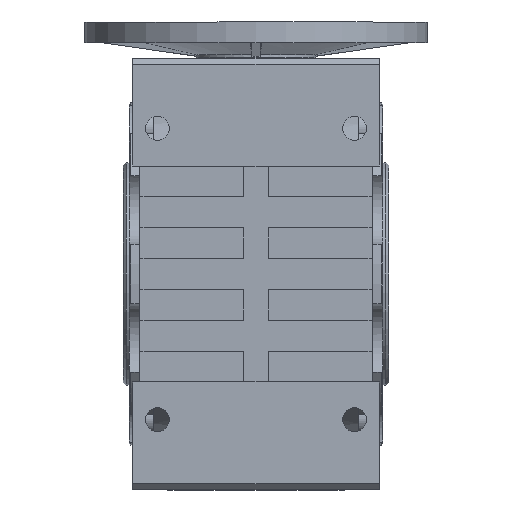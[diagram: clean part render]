
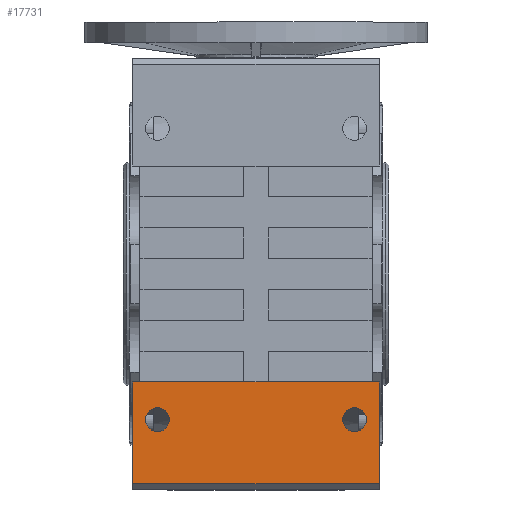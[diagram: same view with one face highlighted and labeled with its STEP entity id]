
A CAD part, front view. The second image highlights one B-rep face of the part: STEP entity #17731.
In plain terms, the highlighted planar face has unit normal (0, -1, 0).
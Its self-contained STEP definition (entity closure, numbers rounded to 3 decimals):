
#447=FACE_BOUND('',#6050,.T.);
#448=FACE_BOUND('',#6051,.T.);
#1036=LINE('',#26686,#2794);
#1118=LINE('',#26895,#2876);
#1210=LINE('',#27102,#2968);
#1211=LINE('',#27103,#2969);
#2794=VECTOR('',#21514,1000.);
#2876=VECTOR('',#21654,1000.);
#2968=VECTOR('',#21826,1000.);
#2969=VECTOR('',#21827,1000.);
#4260=PLANE('',#18990);
#5030=FACE_OUTER_BOUND('',#6049,.T.);
#6049=EDGE_LOOP('',(#13215,#13216,#13217,#13218));
#6050=EDGE_LOOP('',(#13219));
#6051=EDGE_LOOP('',(#13220));
#7070=CIRCLE('',#18953,7.);
#7080=CIRCLE('',#18991,7.);
#7967=VERTEX_POINT('',#26683);
#7968=VERTEX_POINT('',#26685);
#8046=VERTEX_POINT('',#26893);
#8060=VERTEX_POINT('',#26925);
#8121=VERTEX_POINT('',#27101);
#8122=VERTEX_POINT('',#27104);
#9820=EDGE_CURVE('',#7967,#7968,#1036,.T.);
#9916=EDGE_CURVE('',#7967,#8046,#1118,.T.);
#9932=EDGE_CURVE('',#8060,#8060,#7070,.T.);
#10018=EDGE_CURVE('',#8046,#8121,#1210,.T.);
#10019=EDGE_CURVE('',#8121,#7968,#1211,.T.);
#10020=EDGE_CURVE('',#8122,#8122,#7080,.T.);
#13215=ORIENTED_EDGE('',*,*,#9820,.F.);
#13216=ORIENTED_EDGE('',*,*,#9916,.T.);
#13217=ORIENTED_EDGE('',*,*,#10018,.T.);
#13218=ORIENTED_EDGE('',*,*,#10019,.T.);
#13219=ORIENTED_EDGE('',*,*,#10020,.T.);
#13220=ORIENTED_EDGE('',*,*,#9932,.T.);
#17731=ADVANCED_FACE('',(#5030,#447,#448),#4260,.T.);
#18953=AXIS2_PLACEMENT_3D('',#26927,#21674,#21675);
#18990=AXIS2_PLACEMENT_3D('',#27100,#21824,#21825);
#18991=AXIS2_PLACEMENT_3D('',#27105,#21828,#21829);
#21514=DIRECTION('',(0.,0.,-1.));
#21654=DIRECTION('',(-1.,0.,0.));
#21674=DIRECTION('center_axis',(0.,1.,0.));
#21675=DIRECTION('ref_axis',(0.,0.,
1.));
#21824=DIRECTION('center_axis',(0.,-1.,0.));
#21825=DIRECTION('ref_axis',(0.,0.,
-1.));
#21826=DIRECTION('',(0.,0.,-1.));
#21827=DIRECTION('',(1.,0.,0.));
#21828=DIRECTION('center_axis',(0.,1.,0.));
#21829=DIRECTION('ref_axis',(0.,0.,
-1.));
#26683=CARTESIAN_POINT('',(307.275,525.827,-43.39));
#26685=CARTESIAN_POINT('',(307.275,525.827,-102.61));
#26686=CARTESIAN_POINT('',(307.275,525.827,141.83));
#26893=CARTESIAN_POINT('',(163.275,525.827,-43.39));
#26895=CARTESIAN_POINT('',(163.275,525.827,-43.39));
#26925=CARTESIAN_POINT('',(292.775,525.827,-72.39));
#26927=CARTESIAN_POINT('Origin',(292.775,525.827,-65.39));
#27100=CARTESIAN_POINT('Origin',(163.275,525.827,141.83));
#27101=CARTESIAN_POINT('',(163.275,525.827,-102.61));
#27102=CARTESIAN_POINT('',(163.275,525.827,141.83));
#27103=CARTESIAN_POINT('',(163.275,525.827,-102.61));
#27104=CARTESIAN_POINT('',(177.775,525.827,-72.39));
#27105=CARTESIAN_POINT('Origin',(177.775,525.827,-65.39));
